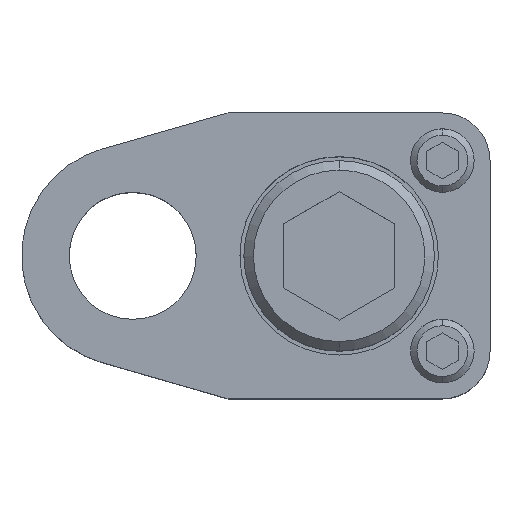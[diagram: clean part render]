
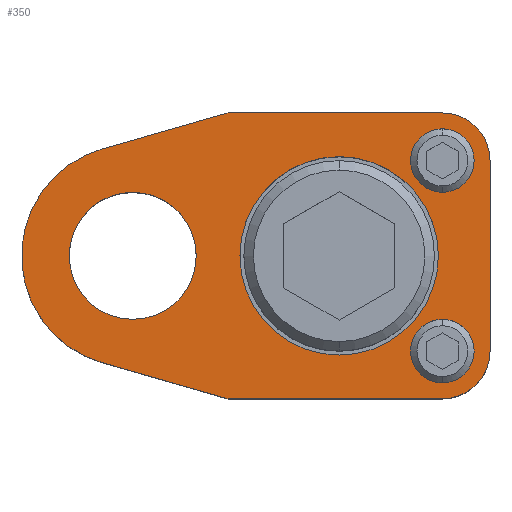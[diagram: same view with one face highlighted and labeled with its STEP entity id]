
A CAD part, top view. The second image highlights one B-rep face of the part: STEP entity #350.
In plain terms, the highlighted planar face has unit normal (0, 0, 1).
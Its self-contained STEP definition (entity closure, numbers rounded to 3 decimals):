
#177=FACE_BOUND('',#611,.T.);
#178=FACE_BOUND('',#612,.T.);
#179=FACE_BOUND('',#613,.T.);
#180=FACE_BOUND('',#614,.T.);
#181=FACE_BOUND('',#615,.T.);
#220=CIRCLE('',#1916,6.);
#223=CIRCLE('',#1922,6.);
#225=CIRCLE('',#1927,14.);
#227=CIRCLE('',#1931,4.);
#229=CIRCLE('',#1934,4.);
#231=CIRCLE('',#1937,4.);
#233=CIRCLE('',#1940,4.);
#238=CIRCLE('',#1948,12.5);
#239=CIRCLE('',#1949,12.5);
#240=CIRCLE('',#1950,8.);
#241=CIRCLE('',#1951,8.);
#350=ADVANCED_FACE('',(#177,#178,#179,#180,#181),#440,.T.);
#440=PLANE('',#1952);
#611=EDGE_LOOP('',(#888,#889,#890,#891,#892,#893,#894,#895));
#612=EDGE_LOOP('',(#896,#897));
#613=EDGE_LOOP('',(#898,#899));
#614=EDGE_LOOP('',(#900,#901));
#615=EDGE_LOOP('',(#902,#903));
#888=ORIENTED_EDGE('',*,*,#1407,.T.);
#889=ORIENTED_EDGE('',*,*,#1411,.T.);
#890=ORIENTED_EDGE('',*,*,#1414,.T.);
#891=ORIENTED_EDGE('',*,*,#1425,.T.);
#892=ORIENTED_EDGE('',*,*,#1433,.T.);
#893=ORIENTED_EDGE('',*,*,#1430,.T.);
#894=ORIENTED_EDGE('',*,*,#1417,.T.);
#895=ORIENTED_EDGE('',*,*,#1421,.T.);
#896=ORIENTED_EDGE('',*,*,#1457,.F.);
#897=ORIENTED_EDGE('',*,*,#1458,.F.);
#898=ORIENTED_EDGE('',*,*,#1450,.F.);
#899=ORIENTED_EDGE('',*,*,#1447,.F.);
#900=ORIENTED_EDGE('',*,*,#1444,.F.);
#901=ORIENTED_EDGE('',*,*,#1441,.F.);
#902=ORIENTED_EDGE('',*,*,#1459,.T.);
#903=ORIENTED_EDGE('',*,*,#1460,.T.);
#1226=VERTEX_POINT('',#2784);
#1227=VERTEX_POINT('',#2786);
#1230=VERTEX_POINT('',#2793);
#1232=VERTEX_POINT('',#2799);
#1234=VERTEX_POINT('',#2805);
#1235=VERTEX_POINT('',#2807);
#1240=VERTEX_POINT('',#2821);
#1244=VERTEX_POINT('',#2832);
#1250=VERTEX_POINT('',#2856);
#1251=VERTEX_POINT('',#2858);
#1254=VERTEX_POINT('',#2868);
#1255=VERTEX_POINT('',#2870);
#1260=VERTEX_POINT('',#2889);
#1261=VERTEX_POINT('',#2890);
#1262=VERTEX_POINT('',#2893);
#1263=VERTEX_POINT('',#2894);
#1407=EDGE_CURVE('',#1227,#1226,#1637,.T.);
#1411=EDGE_CURVE('',#1226,#1230,#220,.T.);
#1414=EDGE_CURVE('',#1230,#1232,#1642,.T.);
#1417=EDGE_CURVE('',#1235,#1234,#1645,.T.);
#1421=EDGE_CURVE('',#1234,#1227,#223,.T.);
#1425=EDGE_CURVE('',#1232,#1240,#1651,.T.);
#1430=EDGE_CURVE('',#1244,#1235,#1656,.T.);
#1433=EDGE_CURVE('',#1240,#1244,#225,.T.);
#1441=EDGE_CURVE('',#1250,#1251,#227,.T.);
#1444=EDGE_CURVE('',#1251,#1250,#229,.T.);
#1447=EDGE_CURVE('',#1254,#1255,#231,.T.);
#1450=EDGE_CURVE('',#1255,#1254,#233,.T.);
#1457=EDGE_CURVE('',#1260,#1261,#238,.T.);
#1458=EDGE_CURVE('',#1261,#1260,#239,.T.);
#1459=EDGE_CURVE('',#1262,#1263,#240,.T.);
#1460=EDGE_CURVE('',#1263,#1262,#241,.T.);
#1637=LINE('',#2785,#1777);
#1642=LINE('',#2800,#1782);
#1645=LINE('',#2806,#1785);
#1651=LINE('',#2822,#1791);
#1656=LINE('',#2831,#1796);
#1777=VECTOR('',#2224,1.);
#1782=VECTOR('',#2237,1.);
#1785=VECTOR('',#2242,1.);
#1791=VECTOR('',#2256,1.);
#1796=VECTOR('',#2263,1.);
#1916=AXIS2_PLACEMENT_3D('',#2794,#2230,#2231);
#1922=AXIS2_PLACEMENT_3D('',#2813,#2249,#2250);
#1927=AXIS2_PLACEMENT_3D('',#2836,#2269,#2270);
#1931=AXIS2_PLACEMENT_3D('',#2857,#2282,#2283);
#1934=AXIS2_PLACEMENT_3D('',#2862,#2289,#2290);
#1937=AXIS2_PLACEMENT_3D('',#2869,#2296,#2297);
#1940=AXIS2_PLACEMENT_3D('',#2874,#2303,#2304);
#1948=AXIS2_PLACEMENT_3D('',#2888,#2321,#2322);
#1949=AXIS2_PLACEMENT_3D('',#2891,#2323,#2324);
#1950=AXIS2_PLACEMENT_3D('',#2892,#2325,#2326);
#1951=AXIS2_PLACEMENT_3D('',#2895,#2327,#2328);
#1952=AXIS2_PLACEMENT_3D('',#2896,#2329,#2330);
#2224=DIRECTION('',(0.,1.,0.));
#2230=DIRECTION('',(0.,0.,1.));
#2231=DIRECTION('',(-0.707,-0.707,0.));
#2237=DIRECTION('',(-1.,0.,0.));
#2242=DIRECTION('',(1.,0.,0.));
#2249=DIRECTION('',(0.,0.,1.));
#2250=DIRECTION('',(-0.707,0.707,0.));
#2256=DIRECTION('',(-0.961,-0.275,0.));
#2263=DIRECTION('',(0.961,-0.275,0.));
#2269=DIRECTION('',(0.,0.,1.));
#2270=DIRECTION('',(0.,1.,0.));
#2282=DIRECTION('',(0.,0.,1.));
#2283=DIRECTION('',(1.,0.,0.));
#2289=DIRECTION('',(0.,0.,1.));
#2290=DIRECTION('',(-1.,0.,0.));
#2296=DIRECTION('',(0.,0.,1.));
#2297=DIRECTION('',(1.,0.,0.));
#2303=DIRECTION('',(0.,0.,1.));
#2304=DIRECTION('',(-1.,0.,0.));
#2321=DIRECTION('',(0.,0.,1.));
#2322=DIRECTION('',(1.,0.,0.));
#2323=DIRECTION('',(0.,0.,1.));
#2324=DIRECTION('',(-1.,0.,0.));
#2325=DIRECTION('',(0.,0.,-1.));
#2326=DIRECTION('',(-1.,0.,0.));
#2327=DIRECTION('',(0.,0.,-1.));
#2328=DIRECTION('',(1.,0.,0.));
#2329=DIRECTION('',(0.,0.,1.));
#2330=DIRECTION('',(0.,-1.,0.));
#2784=CARTESIAN_POINT('',(45.,12.,25.));
#2785=CARTESIAN_POINT('',(45.,-12.,25.));
#2786=CARTESIAN_POINT('',(45.,-12.,25.));
#2793=CARTESIAN_POINT('',(39.,18.,25.));
#2794=CARTESIAN_POINT('',(39.,12.,25.));
#2799=CARTESIAN_POINT('',(12.,18.,25.));
#2800=CARTESIAN_POINT('',(12.,18.,25.));
#2805=CARTESIAN_POINT('',(39.,-18.,25.));
#2806=CARTESIAN_POINT('',(12.,-18.,25.));
#2807=CARTESIAN_POINT('',(12.,-18.,25.));
#2813=CARTESIAN_POINT('',(39.,-12.,25.));
#2821=CARTESIAN_POINT('',(-3.855,13.459,25.));
#2822=CARTESIAN_POINT('',(12.,18.,25.));
#2831=CARTESIAN_POINT('',(12.,-18.,25.));
#2832=CARTESIAN_POINT('',(-3.855,-13.459,25.));
#2836=CARTESIAN_POINT('',(0.,0.,25.));
#2856=CARTESIAN_POINT('',(39.,16.,25.));
#2857=CARTESIAN_POINT('',(39.,12.,25.));
#2858=CARTESIAN_POINT('',(39.,8.,25.));
#2862=CARTESIAN_POINT('',(39.,12.,25.));
#2868=CARTESIAN_POINT('',(39.,-8.,25.));
#2869=CARTESIAN_POINT('',(39.,-12.,25.));
#2870=CARTESIAN_POINT('',(39.,-16.,25.));
#2874=CARTESIAN_POINT('',(39.,-12.,25.));
#2888=CARTESIAN_POINT('',(26.,0.,25.));
#2889=CARTESIAN_POINT('',(26.,12.5,25.));
#2890=CARTESIAN_POINT('',(26.,-12.5,25.));
#2891=CARTESIAN_POINT('',(26.,0.,25.));
#2892=CARTESIAN_POINT('',(0.,0.,25.));
#2893=CARTESIAN_POINT('',(0.,8.,25.));
#2894=CARTESIAN_POINT('',(0.,-8.,25.));
#2895=CARTESIAN_POINT('',(0.,0.,25.));
#2896=CARTESIAN_POINT('',(45.,-12.,25.));
